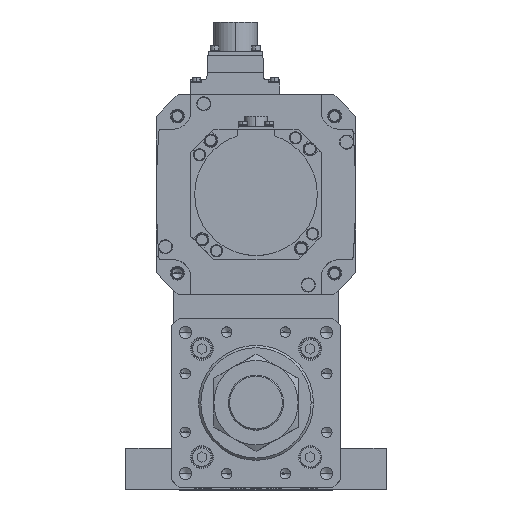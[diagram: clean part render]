
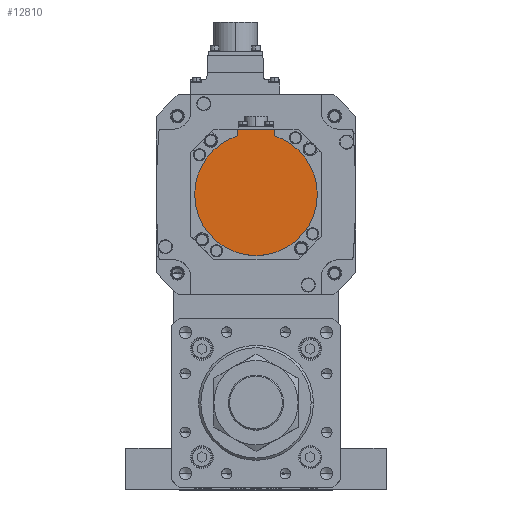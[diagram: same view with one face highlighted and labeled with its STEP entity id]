
A CAD part, top view. The second image highlights one B-rep face of the part: STEP entity #12810.
In plain terms, the highlighted planar face has unit normal (0, 0, 1) as drawn and (0, 0, -1) by its records, which use the part's own axes.
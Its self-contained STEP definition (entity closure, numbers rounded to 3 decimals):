
#1433 = VECTOR ( 'NONE', #26974, 1000. ) ;
#1481 = LINE ( 'NONE', #24057, #31858 ) ;
#3550 = LINE ( 'NONE', #16323, #16766 ) ;
#3885 = CARTESIAN_POINT ( 'NONE',  ( 0., 0., -132.5 ) ) ;
#4700 = EDGE_CURVE ( 'NONE', #16732, #23757, #3550, .T. ) ;
#4756 = AXIS2_PLACEMENT_3D ( 'NONE', #3885, #25396, #28032 ) ;
#4928 = DIRECTION ( 'NONE',  ( 0., 0., 1. ) ) ;
#5111 = ORIENTED_EDGE ( 'NONE', *, *, #16295, .F. ) ;
#5313 = DIRECTION ( 'NONE',  ( 0., 0., 1. ) ) ;
#5943 = CARTESIAN_POINT ( 'NONE',  ( 12., -38.158, -132.5 ) ) ;
#6458 = AXIS2_PLACEMENT_3D ( 'NONE', #21179, #4928, #10446 ) ;
#7613 = VERTEX_POINT ( 'NONE', #5943 ) ;
#7671 = DIRECTION ( 'NONE',  ( 0., 1., 0. ) ) ;
#9068 = VERTEX_POINT ( 'NONE', #26831 ) ;
#10446 = DIRECTION ( 'NONE',  ( 1., 0., 0. ) ) ;
#12810 = ADVANCED_FACE ( 'NONE', ( #32647 ), #24319, .F. ) ;
#12927 = CARTESIAN_POINT ( 'NONE',  ( 0., 0., -132.5 ) ) ;
#13285 = DIRECTION ( 'NONE',  ( 0., 0., 1. ) ) ;
#13861 = CIRCLE ( 'NONE', #29863, 40. ) ;
#14648 = VERTEX_POINT ( 'NONE', #15021 ) ;
#15021 = CARTESIAN_POINT ( 'NONE',  ( 40., 0., -132.5 ) ) ;
#15957 = LINE ( 'NONE', #32416, #1433 ) ;
#16215 = DIRECTION ( 'NONE',  ( 0., 1., 0. ) ) ;
#16295 = EDGE_CURVE ( 'NONE', #9068, #7613, #1481, .T. ) ;
#16323 = CARTESIAN_POINT ( 'NONE',  ( -12., -40.329, -132.5 ) ) ;
#16346 = ORIENTED_EDGE ( 'NONE', *, *, #19012, .F. ) ;
#16391 = CARTESIAN_POINT ( 'NONE',  ( -12., -38.158, -132.5 ) ) ;
#16400 = CARTESIAN_POINT ( 'NONE',  ( 0., -1.249, -132.5 ) ) ;
#16732 = VERTEX_POINT ( 'NONE', #23661 ) ;
#16766 = VECTOR ( 'NONE', #16215, 1000. ) ;
#17321 = VERTEX_POINT ( 'NONE', #31383 ) ;
#19012 = EDGE_CURVE ( 'NONE', #17321, #23757, #31268, .T. ) ;
#19059 = EDGE_LOOP ( 'NONE', ( #31859, #16346, #33959, #30816, #5111, #29024 ) ) ;
#21179 = CARTESIAN_POINT ( 'NONE',  ( 0., 0., -132.5 ) ) ;
#21456 = CIRCLE ( 'NONE', #4756, 40. ) ;
#22117 = AXIS2_PLACEMENT_3D ( 'NONE', #16400, #5313, #22154 ) ;
#22154 = DIRECTION ( 'NONE',  ( 1., 0., 0. ) ) ;
#22429 = EDGE_CURVE ( 'NONE', #14648, #17321, #21456, .T. ) ;
#23661 = CARTESIAN_POINT ( 'NONE',  ( -12., -42.5, -132.5 ) ) ;
#23757 = VERTEX_POINT ( 'NONE', #16391 ) ;
#24057 = CARTESIAN_POINT ( 'NONE',  ( 12., -1.249, -132.5 ) ) ;
#24319 = PLANE ( 'NONE',  #22117 ) ;
#25396 = DIRECTION ( 'NONE',  ( 0., 0., 1. ) ) ;
#26831 = CARTESIAN_POINT ( 'NONE',  ( 12., -42.5, -132.5 ) ) ;
#26974 = DIRECTION ( 'NONE',  ( -1., 0., 0. ) ) ;
#28032 = DIRECTION ( 'NONE',  ( 1., 0., 0. ) ) ;
#29024 = ORIENTED_EDGE ( 'NONE', *, *, #29742, .T. ) ;
#29680 = EDGE_CURVE ( 'NONE', #7613, #14648, #13861, .T. ) ;
#29742 = EDGE_CURVE ( 'NONE', #9068, #16732, #15957, .T. ) ;
#29863 = AXIS2_PLACEMENT_3D ( 'NONE', #12927, #13285, #34927 ) ;
#30816 = ORIENTED_EDGE ( 'NONE', *, *, #29680, .F. ) ;
#31268 = CIRCLE ( 'NONE', #6458, 40. ) ;
#31383 = CARTESIAN_POINT ( 'NONE',  ( -40., 0., -132.5 ) ) ;
#31858 = VECTOR ( 'NONE', #7671, 1000. ) ;
#31859 = ORIENTED_EDGE ( 'NONE', *, *, #4700, .T. ) ;
#32416 = CARTESIAN_POINT ( 'NONE',  ( 0., -42.5, -132.5 ) ) ;
#32647 = FACE_OUTER_BOUND ( 'NONE', #19059, .T. ) ;
#33959 = ORIENTED_EDGE ( 'NONE', *, *, #22429, .F. ) ;
#34927 = DIRECTION ( 'NONE',  ( 1., 0., 0. ) ) ;
